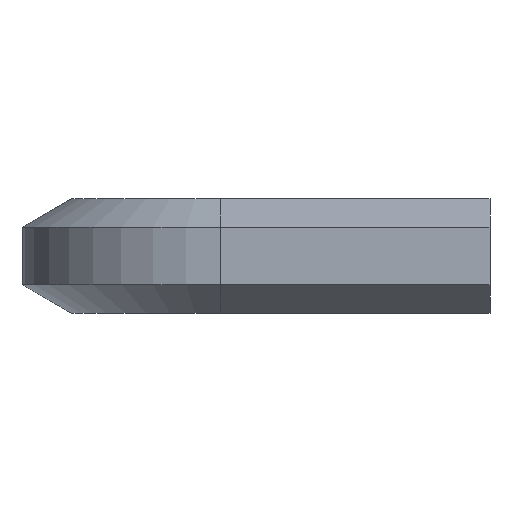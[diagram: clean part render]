
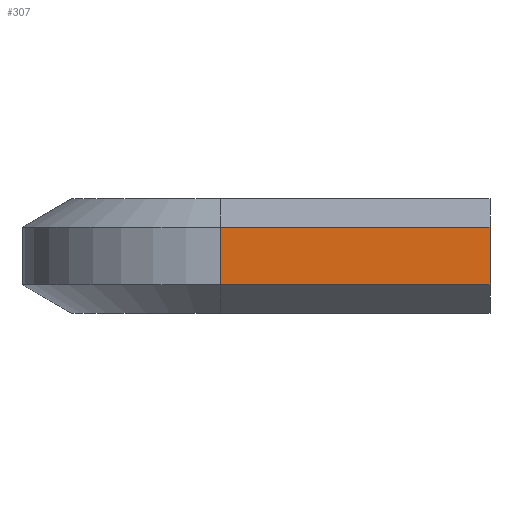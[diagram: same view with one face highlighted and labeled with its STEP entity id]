
A CAD part, left-side view. The second image highlights one B-rep face of the part: STEP entity #307.
In plain terms, the highlighted planar face has unit normal (-1, 0, 0).
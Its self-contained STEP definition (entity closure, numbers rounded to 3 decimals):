
#31=FACE_OUTER_BOUND('',#51,.T.);
#51=EDGE_LOOP('',(#221,#222,#223,#224));
#79=LINE('',#486,#115);
#80=LINE('',#489,#116);
#81=LINE('',#491,#117);
#82=LINE('',#492,#118);
#115=VECTOR('',#391,10.);
#116=VECTOR('',#394,10.);
#117=VECTOR('',#395,10.);
#118=VECTOR('',#396,10.);
#147=VERTEX_POINT('',#482);
#148=VERTEX_POINT('',#484);
#149=VERTEX_POINT('',#488);
#150=VERTEX_POINT('',#490);
#175=EDGE_CURVE('',#147,#148,#79,.T.);
#176=EDGE_CURVE('',#149,#147,#80,.T.);
#177=EDGE_CURVE('',#150,#148,#81,.T.);
#178=EDGE_CURVE('',#149,#150,#82,.T.);
#221=ORIENTED_EDGE('',*,*,#176,.T.);
#222=ORIENTED_EDGE('',*,*,#175,.T.);
#223=ORIENTED_EDGE('',*,*,#177,.F.);
#224=ORIENTED_EDGE('',*,*,#178,.F.);
#293=PLANE('',#347);
#307=ADVANCED_FACE('',(#31),#293,.T.);
#347=AXIS2_PLACEMENT_3D('',#487,#392,#393);
#391=DIRECTION('',(0.,-1.,0.));
#392=DIRECTION('center_axis',(-1.,0.,0.));
#393=DIRECTION('ref_axis',(0.,0.,-1.));
#394=DIRECTION('',(0.,0.,-1.));
#395=DIRECTION('',(0.,0.,-1.));
#396=DIRECTION('',(0.,-1.,0.));
#482=CARTESIAN_POINT('',(0.,46.,-4.907));
#484=CARTESIAN_POINT('',(0.,0.,-4.907));
#486=CARTESIAN_POINT('',(0.,46.,-4.907));
#487=CARTESIAN_POINT('Origin',(0.,46.,4.907));
#488=CARTESIAN_POINT('',(0.,46.,4.907));
#489=CARTESIAN_POINT('',(0.,46.,-4.907));
#490=CARTESIAN_POINT('',(0.,0.,4.907));
#491=CARTESIAN_POINT('',(0.,0.,-4.907));
#492=CARTESIAN_POINT('',(0.,46.,4.907));
